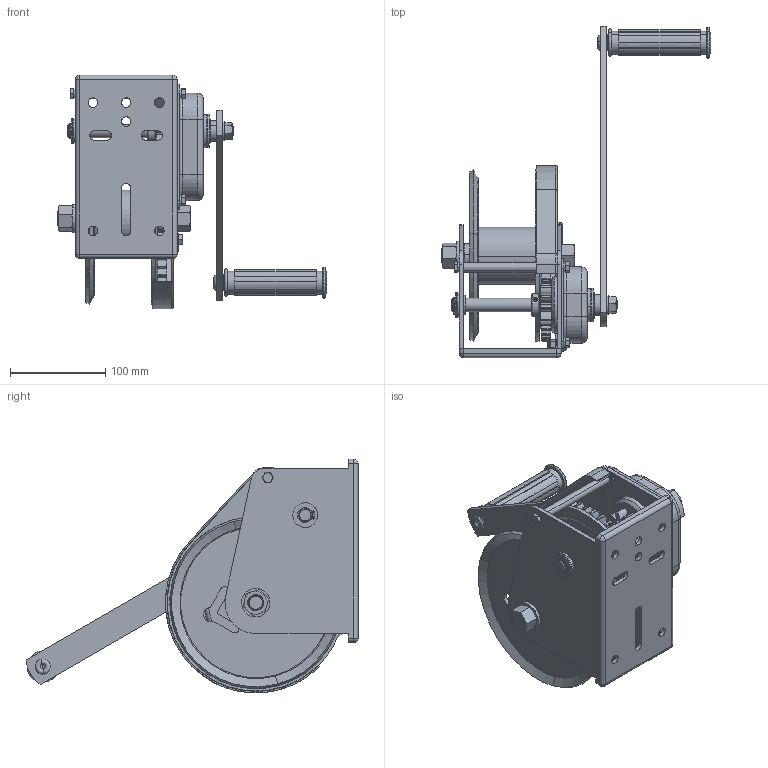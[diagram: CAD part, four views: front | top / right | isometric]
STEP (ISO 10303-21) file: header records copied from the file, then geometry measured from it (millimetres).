
FILE_DESCRIPTION (( 'STEP AP203' ), '1' );
FILE_NAME ('C型1800磅手摇绞车3d图.STEP', '2026-01-19T03:01:02', ( 'Windows 用户' ), ( 'Organization' ), 'SwSTEP 2.0', 'SolidWorks 2020', '' );
FILE_SCHEMA (( 'CONFIG_CONTROL_DESIGN' ));
Length unit declared in the file: millimetre
Products named in the file (42): 鞠褒蹟譫M6; 004.6標えA; 005菜えA; 004.3藻笠え; 平垫圈10; 004.1換雄粣; 鞠褒芛蹟邡M6℅10; 004.5棘轮套圈; 015.4杶奪; 004.2標えB; 015.3湮喘謫; 015.0橙芠郪璃; C倰1800執忒牷褊陬3d芞; 013.0菁釱郪璃; 013.3粣杶B; 粟俶埴翐种4℅24; 004.7喘謫; 013.1菁釱; 004.8癹弇杶; 017傅裝; 003.2粣杶C; 平垫圈16; 002菜えB; 鞠褒蹟譫M10; 轴用弹性挡圈14; 015.1酘耜啣; 001.2忒梟粣; 001.0牷忒郪璃; 001.1蟀裝; 003.0傷裔郪璃; 鞠褒蹟譫M16; 001.3忒梟杶; 014欶褲; 003.1傷裔; 013.2种粣; 012謫粣; 004.4憔謫; 轴用弹性挡圈22; 015.2衵耜啣; 鞠褒芛蹟邡M6℅16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
Assembly tree (52 placements, depth 3):
  C倰1800執忒牷褊陬3d芞
    013.0菁釱郪璃
      013.1菁釱
      013.2种粣  x2
      013.3粣杶B
    015.0橙芠郪璃
      015.5粣杶A
      015.1酘耜啣
      015.2衵耜啣
      015.4杶奪
      015.3湮喘謫
    012謫粣
    平垫圈16
    鞠褒蹟譫M16
    003.0傷裔郪璃
      003.1傷裔
      003.2粣杶C
    014欶褲
    004.1換雄粣
    002菜えB
    轴用弹性挡圈22
    001.0牷忒郪璃
      001.1蟀裝
      001.2忒梟粣
      001.3忒梟杶
    鞠褒蹟譫M10
    平垫圈10
    004.6標えA
    004.2標えB
    004.3藻笠え  x2
    004.4憔謫
    004.5棘轮套圈
    004.7喘謫
    004.8癹弇杶
    017傅裝
    005菜えA
    轴用弹性挡圈14
    弹簧垫圈6  x6
    粟俶埴翐种4℅24
    鞠褒芛蹟邡M6℅16  x3
    鞠褒蹟譫M6
    鞠褒芛蹟邡M6℅10  x3
Bounding box: 283.48 x 349.33 x 246.1 mm (x, y, z)
Volume: 1060469.2 mm3; surface area: 546367.6 mm2
Topology: 48 solids, 48 shells, 1950 faces, 5130 edges, 3308 vertices
Faces by surface type: cylinder 814, plane 486, cone 384, bspline 184, torus 72, sphere 10
Entity records: 77900 total; most frequent: CARTESIAN_POINT 32784, ORIENTED_EDGE 8936, DIRECTION 7960, EDGE_CURVE 4468, AXIS2_PLACEMENT_3D 3192, VERTEX_POINT 2889, EDGE_LOOP 1865, FACE_OUTER_BOUND 1694
